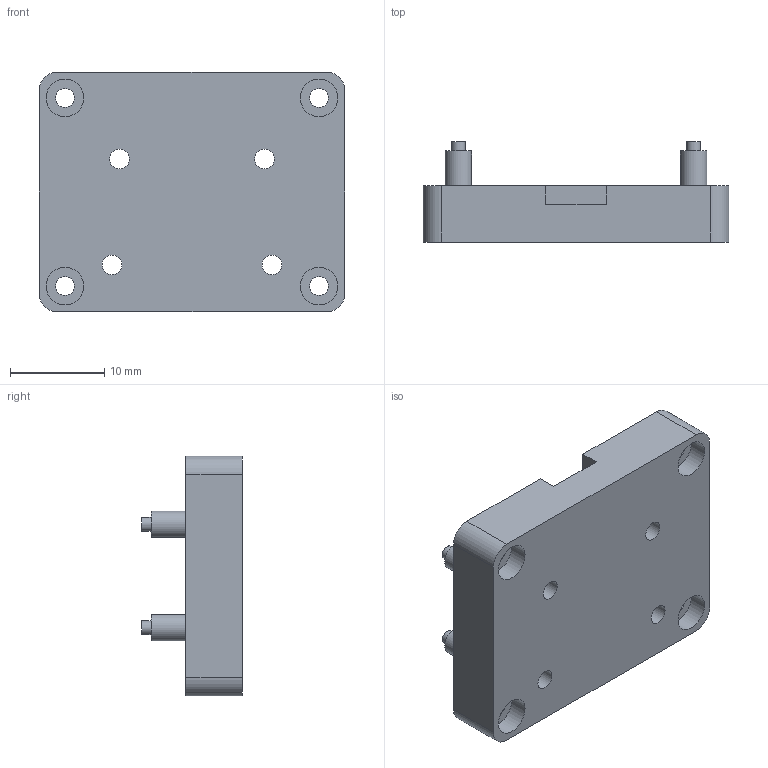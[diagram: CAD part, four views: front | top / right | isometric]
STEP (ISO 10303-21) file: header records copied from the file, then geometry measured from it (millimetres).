
FILE_DESCRIPTION(('sldprt2step conversion of Parasolid XT B-rep'),'2;1');
FILE_NAME('9dtact_base_enhanced.SLDPRT','',(''),(''),'sldprt2step','','');
FILE_SCHEMA(('AUTOMOTIVE_DESIGN { 1 0 10303 214 1 1 1 1 }'));
Length unit declared in the file: millimetre
Products named in the file (1): 9dtact_base_enhanced
Bounding box: 32.5 x 10.7 x 25.5 mm (x, y, z)
Volume: 4519.7 mm3; surface area: 2876 mm2
Topology: 1 solids, 1 shells, 60 faces, 138 edges, 96 vertices
Faces by surface type: plane 30, cylinder 30
Full cylindrical faces by diameter (mm): 1.45 x4, 2 x4, 2.1 x4, 2.8 x4, 2.82 x4, 4 x4
Entity records: 1536 total; most frequent: DIRECTION 278, CARTESIAN_POINT 244, ORIENTED_EDGE 204, AXIS2_PLACEMENT_3D 118, EDGE_LOOP 116, EDGE_CURVE 102, VERTEX_POINT 84, FACE_OUTER_BOUND 60
